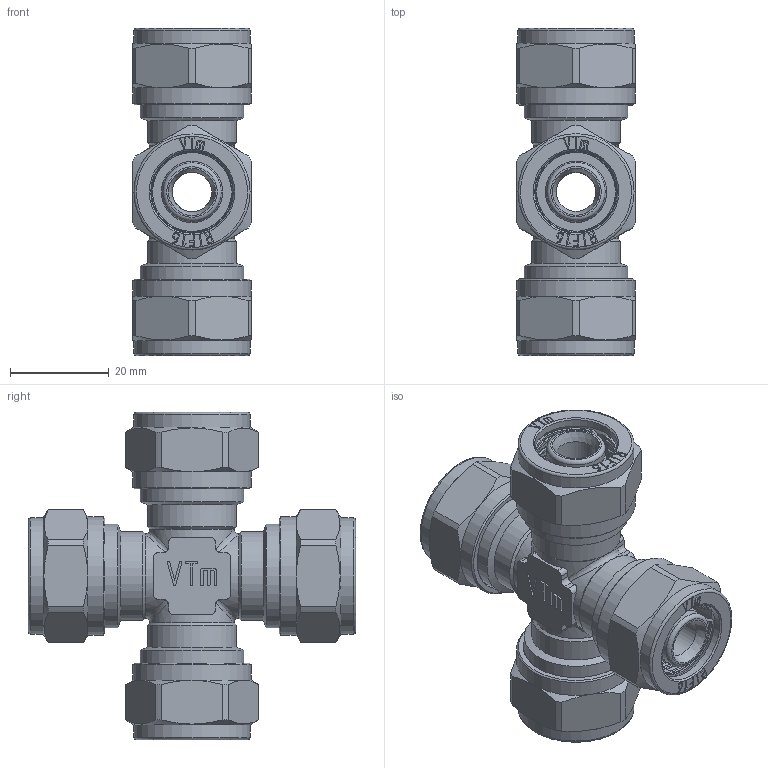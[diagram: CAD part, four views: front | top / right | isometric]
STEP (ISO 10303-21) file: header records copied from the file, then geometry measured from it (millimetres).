
FILE_DESCRIPTION(('STEP AP203'), '1');
FILE_NAME('VTm.341.N.161616', '', ('UNSPECIFIED'), ('UNSPECIFIED'), 'C3D Converter', 'C3D Toolkit', '');
FILE_SCHEMA(('CONFIG_CONTROL_DESIGN'));
Length unit declared in the file: millimetre
Products named in the file (1): ВР.302635.086.000 СБ
Bounding box: 24 x 66.21 x 66.21 mm (x, y, z)
Volume: 31059.9 mm3; surface area: 24342.5 mm2
Topology: 5 solids, 5 shells, 1282 faces, 3476 edges, 2288 vertices
Faces by surface type: extrusion 522, plane 424, cylinder 148, torus 108, cone 76, bspline 4
Full cylindrical faces by diameter (mm): 8 x4, 11.8 x16, 12.4 x4, 16.2 x4, 16.7 x4, 18 x4, 18.632 x4, 20.955 x4, 23.5 x4, 24 x4
Entity records: 45916 total; most frequent: CARTESIAN_POINT 16601, ORIENTED_EDGE 6672, DIRECTION 4386, EDGE_CURVE 3336, VERTEX_POINT 2288, VECTOR 2000, B_SPLINE_CURVE_WITH_KNOTS 1858, EDGE_LOOP 1512
